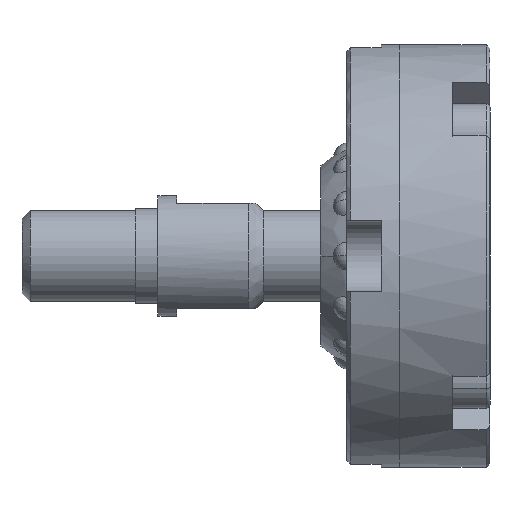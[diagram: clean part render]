
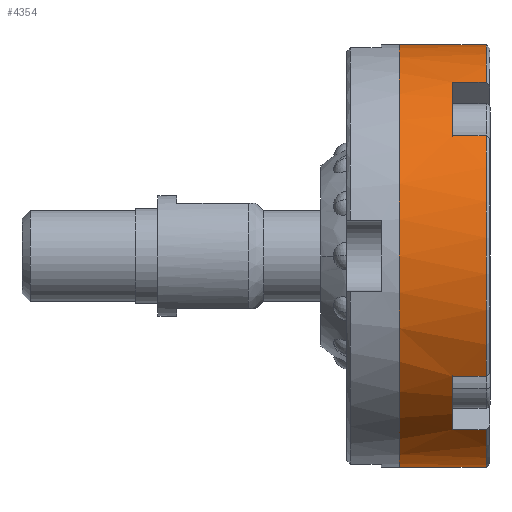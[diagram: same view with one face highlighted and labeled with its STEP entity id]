
A CAD part, front view. The second image highlights one B-rep face of the part: STEP entity #4354.
In plain terms, the highlighted cylindrical face has radius 28 mm (diameter 56 mm), a partial arc.
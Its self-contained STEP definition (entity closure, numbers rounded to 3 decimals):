
#465 = CARTESIAN_POINT ( 'NONE',  ( 11.5, 0., 0. ) ) ;
#466 = DIRECTION ( 'NONE',  ( -1., 0., 0. ) ) ;
#467 = DIRECTION ( 'NONE',  ( 0., 0., 1. ) ) ;
#479 = CARTESIAN_POINT ( 'NONE',  ( 11.5, 0., 0. ) ) ;
#480 = DIRECTION ( 'NONE',  ( -1., 0., 0. ) ) ;
#481 = DIRECTION ( 'NONE',  ( 0., 0., 1. ) ) ;
#1824 = EDGE_CURVE ( 'NONE', #3980, #11839, #4467, .T. ) ;
#1827 = EDGE_CURVE ( 'NONE', #11840, #3968, #4458, .T. ) ;
#1828 = EDGE_CURVE ( 'NONE', #11841, #11840, #4507, .T. ) ;
#1829 = EDGE_CURVE ( 'NONE', #11841, #3980, #4495, .T. ) ;
#1830 = EDGE_CURVE ( 'NONE', #11842, #11839, #4542, .T. ) ;
#1831 = EDGE_CURVE ( 'NONE', #11843, #11842, #4644, .T. ) ;
#1832 = EDGE_CURVE ( 'NONE', #11843, #5948, #4630, .T. ) ;
#1833 = EDGE_CURVE ( 'NONE', #5924, #5926, #4250, .T. ) ;
#2334 = CIRCLE ( 'NONE', #5579, 28. ) ;
#2336 = CIRCLE ( 'NONE', #5583, 28. ) ;
#3051 = CARTESIAN_POINT ( 'NONE',  ( 0., 0., 0. ) ) ;
#3052 = DIRECTION ( 'NONE',  ( -1., 0., 0. ) ) ;
#3053 = DIRECTION ( 'NONE',  ( 0., 0., 1. ) ) ;
#3753 = CARTESIAN_POINT ( 'NONE',  ( 11.5, 0., -28. ) ) ;
#3754 = CARTESIAN_POINT ( 'NONE',  ( 0., 0., -28. ) ) ;
#3755 = CARTESIAN_POINT ( 'NONE',  ( 0., 0., 28. ) ) ;
#3756 = CARTESIAN_POINT ( 'NONE',  ( 11.5, 0., 28. ) ) ;
#3770 = CARTESIAN_POINT ( 'NONE',  ( 11.5, -15.945, 23.016 ) ) ;
#3968 = VERTEX_POINT ( 'NONE', #11792 ) ;
#3980 = VERTEX_POINT ( 'NONE', #11804 ) ;
#4006 = EDGE_CURVE ( 'NONE', #5922, #5924, #5314, .T. ) ;
#4008 = EDGE_CURVE ( 'NONE', #5927, #5926, #4293, .T. ) ;
#4250 = CIRCLE ( 'NONE', #9154, 28. ) ;
#4275 = VECTOR ( 'NONE', #9590, 1000. ) ;
#4293 = LINE ( 'NONE', #9589, #4275 ) ;
#4354 = ADVANCED_FACE ( 'NONE', ( #6533 ), #6534, .T. ) ;
#4458 = LINE ( 'NONE', #11184, #4481 ) ;
#4467 = CIRCLE ( 'NONE', #9151, 28. ) ;
#4481 = VECTOR ( 'NONE', #11185, 1000. ) ;
#4495 = LINE ( 'NONE', #11189, #4529 ) ;
#4507 = CIRCLE ( 'NONE', #9152, 28. ) ;
#4529 = VECTOR ( 'NONE', #11190, 1000. ) ;
#4542 = LINE ( 'NONE', #11191, #4580 ) ;
#4580 = VECTOR ( 'NONE', #11192, 1000. ) ;
#4630 = LINE ( 'NONE', #11196, #4685 ) ;
#4644 = CIRCLE ( 'NONE', #9153, 28. ) ;
#4685 = VECTOR ( 'NONE', #11197, 1000. ) ;
#5027 = VECTOR ( 'NONE', #9585, 1000. ) ;
#5314 = LINE ( 'NONE', #9584, #5027 ) ;
#5579 = AXIS2_PLACEMENT_3D ( 'NONE', #465, #466, #467 ) ;
#5583 = AXIS2_PLACEMENT_3D ( 'NONE', #479, #480, #481 ) ;
#5922 = VERTEX_POINT ( 'NONE', #3753 ) ;
#5924 = VERTEX_POINT ( 'NONE', #3754 ) ;
#5926 = VERTEX_POINT ( 'NONE', #3755 ) ;
#5927 = VERTEX_POINT ( 'NONE', #3756 ) ;
#5948 = VERTEX_POINT ( 'NONE', #3770 ) ;
#6533 = FACE_OUTER_BOUND ( 'NONE', #7477, .T. ) ;
#6534 = CYLINDRICAL_SURFACE ( 'NONE', #10920, 28. ) ;
#7410 = EDGE_CURVE ( 'NONE', #5948, #5927, #2334, .T. ) ;
#7414 = EDGE_CURVE ( 'NONE', #5922, #3968, #2336, .T. ) ;
#7477 = EDGE_LOOP ( 'NONE', ( #10165, #10156, #10155, #10157, #10149, #10166, #10145, #10128, #10153, #10105, #10175, #10160 ) ) ;
#8200 = CARTESIAN_POINT ( 'NONE',  ( 11.5, -23.016, 15.945 ) ) ;
#8201 = CARTESIAN_POINT ( 'NONE',  ( 7., -15.945, -23.016 ) ) ;
#8202 = CARTESIAN_POINT ( 'NONE',  ( 7., -23.016, -15.945 ) ) ;
#8203 = CARTESIAN_POINT ( 'NONE',  ( 7., -23.016, 15.945 ) ) ;
#8204 = CARTESIAN_POINT ( 'NONE',  ( 7., -15.945, 23.016 ) ) ;
#9099 = CARTESIAN_POINT ( 'NONE',  ( 11.5, 0., 0. ) ) ;
#9100 = DIRECTION ( 'NONE',  ( -1., 0., 0. ) ) ;
#9102 = DIRECTION ( 'NONE',  ( 0., 0., 1. ) ) ;
#9151 = AXIS2_PLACEMENT_3D ( 'NONE', #9099, #9100, #9102 ) ;
#9152 = AXIS2_PLACEMENT_3D ( 'NONE', #11186, #11187, #11188 ) ;
#9153 = AXIS2_PLACEMENT_3D ( 'NONE', #11193, #11194, #11195 ) ;
#9154 = AXIS2_PLACEMENT_3D ( 'NONE', #11198, #11199, #11200 ) ;
#9584 = CARTESIAN_POINT ( 'NONE',  ( 0., 0., -28. ) ) ;
#9585 = DIRECTION ( 'NONE',  ( -1., 0., 0. ) ) ;
#9589 = CARTESIAN_POINT ( 'NONE',  ( 0., 0., 28. ) ) ;
#9590 = DIRECTION ( 'NONE',  ( -1., 0., 0. ) ) ;
#10105 = ORIENTED_EDGE ( 'NONE', *, *, #7410, .T. ) ;
#10128 = ORIENTED_EDGE ( 'NONE', *, *, #1831, .F. ) ;
#10145 = ORIENTED_EDGE ( 'NONE', *, *, #1830, .F. ) ;
#10149 = ORIENTED_EDGE ( 'NONE', *, *, #1829, .T. ) ;
#10153 = ORIENTED_EDGE ( 'NONE', *, *, #1832, .T. ) ;
#10155 = ORIENTED_EDGE ( 'NONE', *, *, #1827, .F. ) ;
#10156 = ORIENTED_EDGE ( 'NONE', *, *, #7414, .T. ) ;
#10157 = ORIENTED_EDGE ( 'NONE', *, *, #1828, .F. ) ;
#10160 = ORIENTED_EDGE ( 'NONE', *, *, #1833, .F. ) ;
#10165 = ORIENTED_EDGE ( 'NONE', *, *, #4006, .F. ) ;
#10166 = ORIENTED_EDGE ( 'NONE', *, *, #1824, .T. ) ;
#10175 = ORIENTED_EDGE ( 'NONE', *, *, #4008, .T. ) ;
#10920 = AXIS2_PLACEMENT_3D ( 'NONE', #3051, #3052, #3053 ) ;
#11184 = CARTESIAN_POINT ( 'NONE',  ( 7., -15.945, -23.016 ) ) ;
#11185 = DIRECTION ( 'NONE',  ( 1., 0., 0. ) ) ;
#11186 = CARTESIAN_POINT ( 'NONE',  ( 7., 0., 0. ) ) ;
#11187 = DIRECTION ( 'NONE',  ( 1., 0., 0. ) ) ;
#11188 = DIRECTION ( 'NONE',  ( 0., 1., 0. ) ) ;
#11189 = CARTESIAN_POINT ( 'NONE',  ( 7., -23.016, -15.945 ) ) ;
#11190 = DIRECTION ( 'NONE',  ( 1., 0., 0. ) ) ;
#11191 = CARTESIAN_POINT ( 'NONE',  ( 7., -23.016, 15.945 ) ) ;
#11192 = DIRECTION ( 'NONE',  ( 1., 0., 0. ) ) ;
#11193 = CARTESIAN_POINT ( 'NONE',  ( 7., 0., 0. ) ) ;
#11194 = DIRECTION ( 'NONE',  ( 1., 0., 0. ) ) ;
#11195 = DIRECTION ( 'NONE',  ( 0., 0., -1. ) ) ;
#11196 = CARTESIAN_POINT ( 'NONE',  ( 7., -15.945, 23.016 ) ) ;
#11197 = DIRECTION ( 'NONE',  ( 1., 0., 0. ) ) ;
#11198 = CARTESIAN_POINT ( 'NONE',  ( 0., 0., 0. ) ) ;
#11199 = DIRECTION ( 'NONE',  ( -1., 0., 0. ) ) ;
#11200 = DIRECTION ( 'NONE',  ( 0., 0., 1. ) ) ;
#11792 = CARTESIAN_POINT ( 'NONE',  ( 11.5, -15.945, -23.016 ) ) ;
#11804 = CARTESIAN_POINT ( 'NONE',  ( 11.5, -23.016, -15.945 ) ) ;
#11839 = VERTEX_POINT ( 'NONE', #8200 ) ;
#11840 = VERTEX_POINT ( 'NONE', #8201 ) ;
#11841 = VERTEX_POINT ( 'NONE', #8202 ) ;
#11842 = VERTEX_POINT ( 'NONE', #8203 ) ;
#11843 = VERTEX_POINT ( 'NONE', #8204 ) ;
